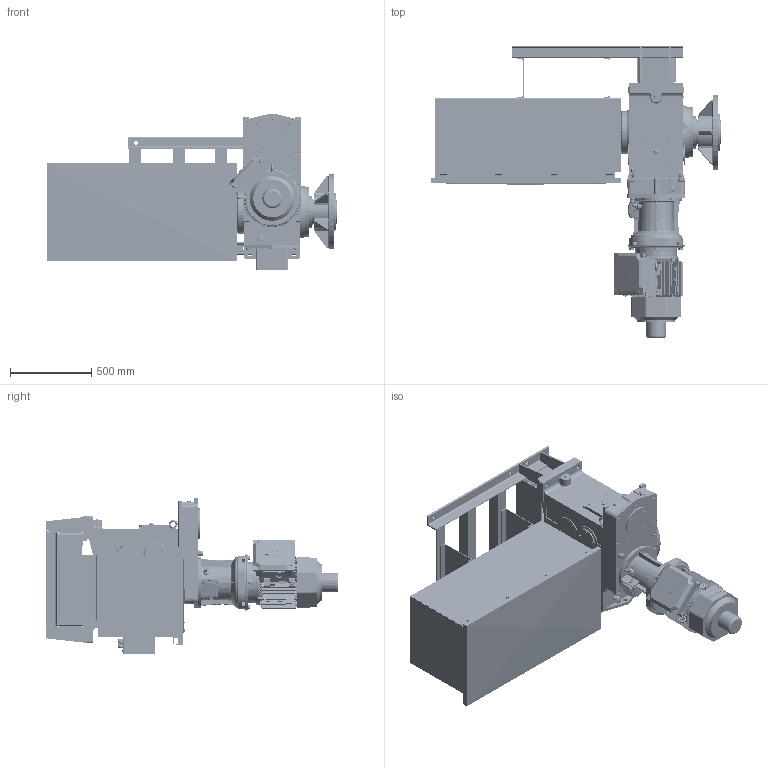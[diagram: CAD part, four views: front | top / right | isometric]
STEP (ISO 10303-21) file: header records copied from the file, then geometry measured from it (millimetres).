
FILE_DESCRIPTION(/* description */ (''),/* implementation_level */ '2;1');
FILE_NAME(/* name */ 'K:\NEMANJA\CABLE REEL\CABLE REEL DA\0700-6\07006005 DA-CRVD\STEP\75982.stp',/* time_stamp */ '2017-03-16T15:23:27+01:00',/* author */ ('milman01'),/* organization */ ('Hillmar Industries Ltd.'),/* preprocessor_version */ 'ST-DEVELOPER v16.1',/* originating_system */ 'Autodesk Inventor 2016',/* authorisation */ '');
FILE_SCHEMA (('AUTOMOTIVE_DESIGN { 1 0 10303 214 3 1 1 }'));
Products named in the file (1): 75982
Bounding box: 1786.25 x 1796.59 x 960.37 mm (x, y, z)
Volume: 125801570.3 mm3; surface area: 16919765.7 mm2
Topology: 13 solids, 13 shells, 5662 faces, 14911 edges, 9541 vertices
Faces by surface type: plane 2626, cylinder 1602, bspline 603, cone 550, torus 242, sphere 39
Full cylindrical faces by diameter (mm): 7 x4, 8 x2, 8.376 x16, 8.731 x1, 10 x25, 10.106 x66, 10.38 x3, 11 x20, 11.053 x5, 12 x14, 12.5 x6, 13 x31, 13.2 x3, 13.5 x16, 14 x12, 14.917 x4, 15 x3, 16 x5, 16.974 x3, 17.2 x5, 17.475 x1, 18 x5, 18.256 x3, 18.38 x4, 19 x4, 20 x18, 20.5 x4, 22 x27, 22.3 x4, 23.812 x2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
Entity records: 193259 total; most frequent: CARTESIAN_POINT 55737, ORIENTED_EDGE 27732, DIRECTION 25910, EDGE_CURVE 13848, AXIS2_PLACEMENT_3D 9382, VERTEX_POINT 9249, LINE 7146, VECTOR 7146
